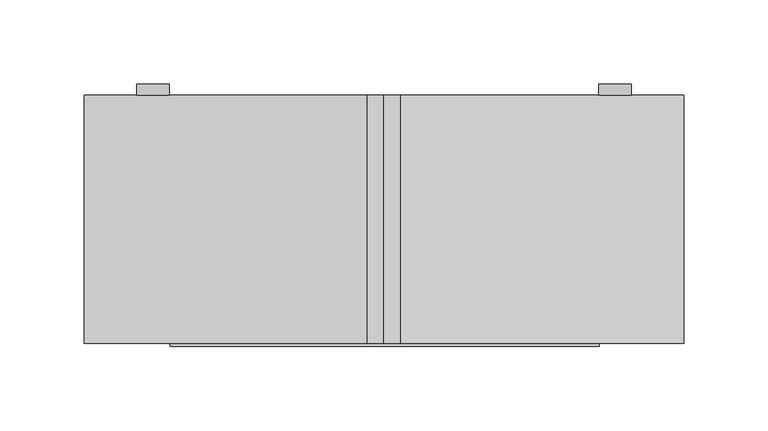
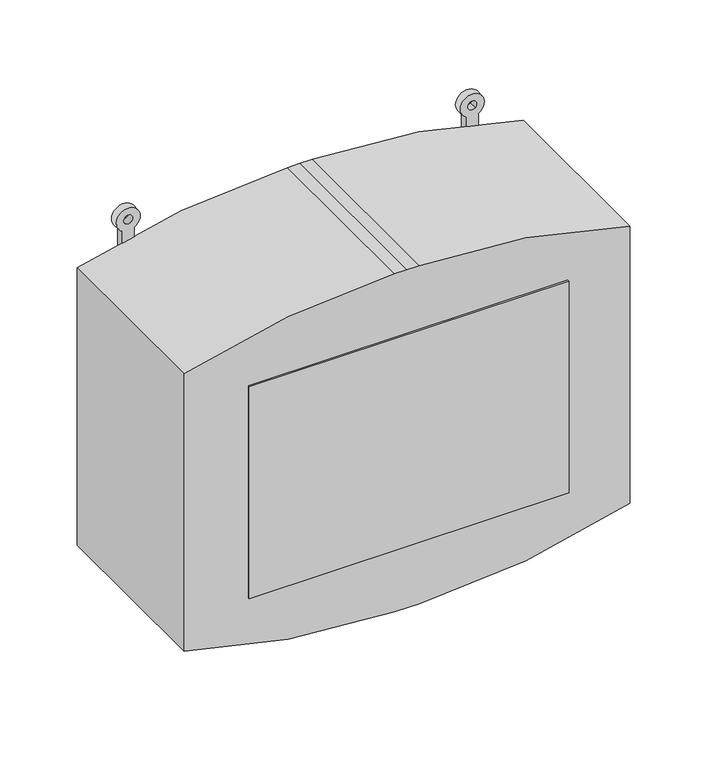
"""IFC4 building model written with IfcOpenShell, lengths in millimetres: valve geometry, Flow Meter SYS-1000 ONICON_rev : Flow Meter SYS-1000 ONICON_rev."""

from ifc_helpers import new_model, si_unit, point, frame, frame_2d, origin, place, context, project, spatial, polyline, circle_curve, trimmed, segment, composite_curve, outline, extrude, source, transform, mapped, element, save


def valve_2fffbe04(model_context):
    return source(origin(), model_context, "Body", "SweptSolid", [
        extrude(outline(composite_curve([segment(trimmed(circle_curve(frame_2d((144.1133224, -151.4166847)), 9.525), [point((135.8644305, -146.6541847))], [point((135.8644305, -156.1791847))], False, "CARTESIAN"), True, "CONTINUOUS"), segment(polyline([(135.8644305, -156.1791847), (-133.3877856, -156.1791847)]), True, "CONTINUOUS"), segment(trimmed(circle_curve(frame_2d((-141.6366776, -151.4166847)), 9.525), [point((-133.3877856, -156.1791847))], [point((-133.3877856, -146.6541847))], False, "CARTESIAN"), True, "CONTINUOUS"), segment(polyline([(-133.3877856, -146.6541847), (135.8644305, -146.6541847)]), True, "CONTINUOUS")], self_intersect=False), holes=[composite_curve([segment(trimmed(circle_curve(frame_2d((144.1133224, -151.4166847)), 3.57124), [point((146.7747889, -149.0354347))], [point((141.451856, -153.7979347))], True, "CARTESIAN"), True, "CONTINUOUS"), segment(trimmed(circle_curve(frame_2d((144.1133224, -151.4166847)), 3.57124), [point((141.451856, -153.7979347))], [point((146.7747889, -149.0354347))], True, "CARTESIAN"), True, "CONTINUOUS")], self_intersect=False), composite_curve([segment(trimmed(circle_curve(frame_2d((-141.6366776, -151.4166847)), 3.57124), [point((-144.298144, -149.0354347))], [point((-138.9752111, -153.7979347))], True, "CARTESIAN"), True, "CONTINUOUS"), segment(trimmed(circle_curve(frame_2d((-141.6366776, -151.4166847)), 3.57124), [point((-138.9752111, -153.7979347))], [point((-144.298144, -149.0354347))], True, "CARTESIAN"), True, "CONTINUOUS")], self_intersect=False)]), frame((0.0, -6.35, 0.0), z_axis=(0.0, 1.0, 0.0), x_axis=(0.0, 0.0, 1.0)), (0.0, 0.0, 1.0), 6.35),
        extrude(outline(composite_curve([segment(polyline([(135.8644305, 117.3788153), (-133.3877856, 117.3788153)]), True, "CONTINUOUS"), segment(trimmed(circle_curve(frame_2d((-141.6366776, 122.1413153)), 9.525), [point((-133.3877856, 117.3788153))], [point((-133.3877856, 126.9038153))], False, "CARTESIAN"), True, "CONTINUOUS"), segment(polyline([(-133.3877856, 126.9038153), (135.8644305, 126.9038153)]), True, "CONTINUOUS"), segment(trimmed(circle_curve(frame_2d((144.1133224, 122.1413153)), 9.525), [point((135.8644305, 126.9038153))], [point((135.8644305, 117.3788153))], False, "CARTESIAN"), True, "CONTINUOUS")], self_intersect=False), holes=[composite_curve([segment(trimmed(circle_curve(frame_2d((144.1133224, 122.1413153)), 3.57124), [point((141.451856, 124.5225653))], [point((146.7747889, 119.7600653))], True, "CARTESIAN"), True, "CONTINUOUS"), segment(trimmed(circle_curve(frame_2d((144.1133224, 122.1413153)), 3.57124), [point((146.7747889, 119.7600653))], [point((141.451856, 124.5225653))], True, "CARTESIAN"), True, "CONTINUOUS")], self_intersect=False), composite_curve([segment(trimmed(circle_curve(frame_2d((-141.6366776, 122.1413153)), 3.57124), [point((-138.9752111, 124.5225653))], [point((-144.298144, 119.7600653))], True, "CARTESIAN"), True, "CONTINUOUS"), segment(trimmed(circle_curve(frame_2d((-141.6366776, 122.1413153)), 3.57124), [point((-144.298144, 119.7600653))], [point((-138.9752111, 124.5225653))], True, "CARTESIAN"), True, "CONTINUOUS")], self_intersect=False)]), frame((0.0, -6.35, 0.0), z_axis=(0.0, 1.0, 0.0), x_axis=(0.0, 0.0, 1.0)), (0.0, 0.0, 1.0), 6.35),
        extrude(outline(composite_curve([segment(polyline([(117.6403443, -191.9423847), (-115.2570437, -191.9423847)]), True, "CONTINUOUS"), segment(trimmed(circle_curve(frame_2d((421.7894816, -24.5234935)), 562.5371591), [point((-115.2570437, -191.9423847))], [point((-140.7476776, -24.5234935))], False, "CARTESIAN"), True, "CONTINUOUS"), segment(polyline([(-140.7476776, -24.5234935), (-140.7476776, -14.6376847), (-140.7476776, -4.7518759)]), True, "CONTINUOUS"), segment(trimmed(circle_curve(frame_2d((421.7894816, -4.7518759)), 562.5371592), [point((-140.7476776, -4.7518759))], [point((-115.2570437, 162.6670153))], False, "CARTESIAN"), True, "CONTINUOUS"), segment(polyline([(-115.2570437, 162.6670153), (117.6403443, 162.6670153)]), True, "CONTINUOUS"), segment(trimmed(circle_curve(frame_2d((-417.3535689, -4.7518759)), 560.5778913), [point((117.6403443, 162.6670153))], [point((143.2243224, -4.7518759))], False, "CARTESIAN"), True, "CONTINUOUS"), segment(polyline([(143.2243224, -4.7518759), (143.2243224, -14.6376847), (143.2243224, -24.5234935)]), True, "CONTINUOUS"), segment(trimmed(circle_curve(frame_2d((-417.3535689, -24.5234935)), 560.5778913), [point((143.2243224, -24.5234935))], [point((117.6403443, -191.9423847))], False, "CARTESIAN"), True, "CONTINUOUS")], self_intersect=False)), frame((0.0, -153.3921875, 0.0), z_axis=(0.0, 1.0, 0.0), x_axis=(0.0, 0.0, 1.0)), (0.0, 0.0, 1.0), 147.0421875),
        extrude(outline(polyline([(112.8576153, -155.2869086), (-141.1423847, -155.2869086), (-141.1423847, -153.3921875), (112.8576153, -153.3921875), (112.8576153, -155.2869086)])), frame((0.0, 0.0, -87.6616776), z_axis=(0.0, 0.0, 1.0), x_axis=(1.0, 0.0, 0.0)), (0.0, 0.0, 1.0), 177.8),
    ])


if __name__ == "__main__":
    model = new_model("IFC4")
    model_context = context("Model", 3, world=origin())
    ifc_project = project(units=[si_unit("LENGTHUNIT", "METRE", prefix="MILLI")], contexts=[model_context])
    site = spatial("IfcSite", under=ifc_project)
    building = spatial("IfcBuilding", under=site)
    placement = place(None, origin())
    valve_shape = valve_2fffbe04(model_context)
    element("IfcValve", 1, ObjectType="Flow Meter SYS-1000 ONICON_rev : Flow Meter SYS-1000 ONICON_rev", at=placement, inside=building, context=model_context, shape_type="MappedRepresentation", body=[
        mapped(valve_shape, transform((0.0, 0.0, 0.0), x_axis=(1.0, 0.0, 0.0), y_axis=(0.0, 1.0, 0.0), z_axis=(0.0, 0.0, 1.0))),
    ])
    save(model, "model.ifc")
